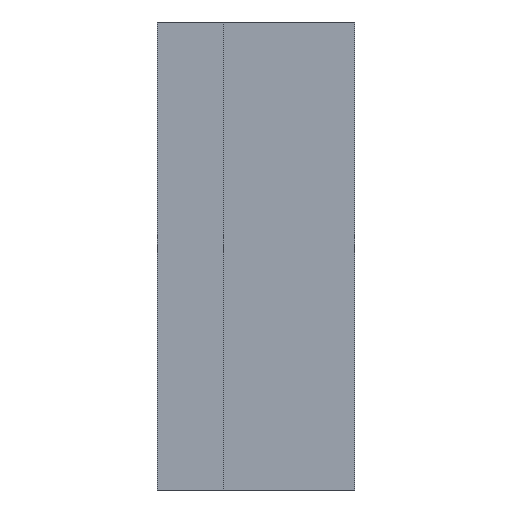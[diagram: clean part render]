
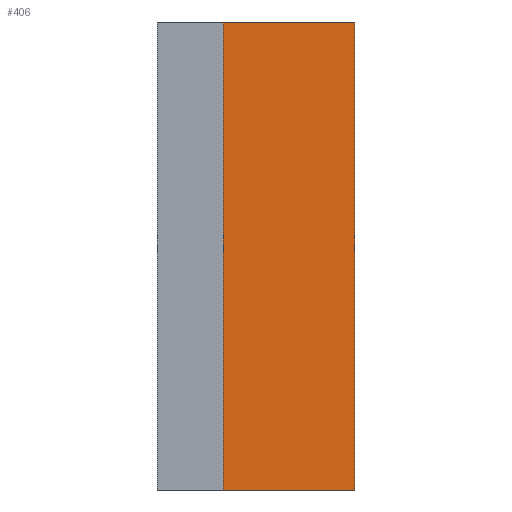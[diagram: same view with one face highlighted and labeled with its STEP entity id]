
A CAD part, left-side view. The second image highlights one B-rep face of the part: STEP entity #406.
In plain terms, the highlighted planar face has unit normal (-1, 0, 0).
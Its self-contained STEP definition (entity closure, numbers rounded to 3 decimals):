
#2 = EDGE_LOOP ( 'NONE', ( #598, #276, #576, #194 ) ) ;
#28 = CARTESIAN_POINT ( 'NONE',  ( -3.2, 0., 1.6 ) ) ;
#54 = VECTOR ( 'NONE', #369, 1000. ) ;
#66 = DIRECTION ( 'NONE',  ( 0., 1., 0. ) ) ;
#69 = CARTESIAN_POINT ( 'NONE',  ( -3.2, 0.9, -1.6 ) ) ;
#77 = LINE ( 'NONE', #28, #348 ) ;
#107 = VERTEX_POINT ( 'NONE', #514 ) ;
#116 = PLANE ( 'NONE',  #251 ) ;
#175 = EDGE_CURVE ( 'NONE', #382, #272, #397, .T. ) ;
#194 = ORIENTED_EDGE ( 'NONE', *, *, #234, .T. ) ;
#213 = CARTESIAN_POINT ( 'NONE',  ( -3.2, 0.9, 1.6 ) ) ;
#234 = EDGE_CURVE ( 'NONE', #615, #382, #524, .T. ) ;
#251 = AXIS2_PLACEMENT_3D ( 'NONE', #326, #574, #66 ) ;
#272 = VERTEX_POINT ( 'NONE', #469 ) ;
#276 = ORIENTED_EDGE ( 'NONE', *, *, #452, .F. ) ;
#301 = CARTESIAN_POINT ( 'NONE',  ( -3.2, 0., -1.6 ) ) ;
#326 = CARTESIAN_POINT ( 'NONE',  ( -3.2, 0., 1.6 ) ) ;
#346 = CARTESIAN_POINT ( 'NONE',  ( -3.2, 0.9, 1.6 ) ) ;
#348 = VECTOR ( 'NONE', #439, 1000. ) ;
#349 = VECTOR ( 'NONE', #623, 1000. ) ;
#369 = DIRECTION ( 'NONE',  ( 0., -1., 0. ) ) ;
#382 = VERTEX_POINT ( 'NONE', #69 ) ;
#397 = LINE ( 'NONE', #301, #54 ) ;
#406 = ADVANCED_FACE ( 'NONE', ( #575 ), #116, .F. ) ;
#439 = DIRECTION ( 'NONE',  ( 0., -1., 0. ) ) ;
#452 = EDGE_CURVE ( 'NONE', #107, #272, #528, .T. ) ;
#469 = CARTESIAN_POINT ( 'NONE',  ( -3.2, 0., -1.6 ) ) ;
#481 = CARTESIAN_POINT ( 'NONE',  ( -3.2, 0., 1.6 ) ) ;
#514 = CARTESIAN_POINT ( 'NONE',  ( -3.2, 0., 1.6 ) ) ;
#524 = LINE ( 'NONE', #213, #349 ) ;
#528 = LINE ( 'NONE', #481, #630 ) ;
#529 = DIRECTION ( 'NONE',  ( 0., 0., -1. ) ) ;
#571 = EDGE_CURVE ( 'NONE', #615, #107, #77, .T. ) ;
#574 = DIRECTION ( 'NONE',  ( 1., 0., 0. ) ) ;
#575 = FACE_OUTER_BOUND ( 'NONE', #2, .T. ) ;
#576 = ORIENTED_EDGE ( 'NONE', *, *, #571, .F. ) ;
#598 = ORIENTED_EDGE ( 'NONE', *, *, #175, .T. ) ;
#615 = VERTEX_POINT ( 'NONE', #346 ) ;
#623 = DIRECTION ( 'NONE',  ( 0., 0., -1. ) ) ;
#630 = VECTOR ( 'NONE', #529, 1000. ) ;
